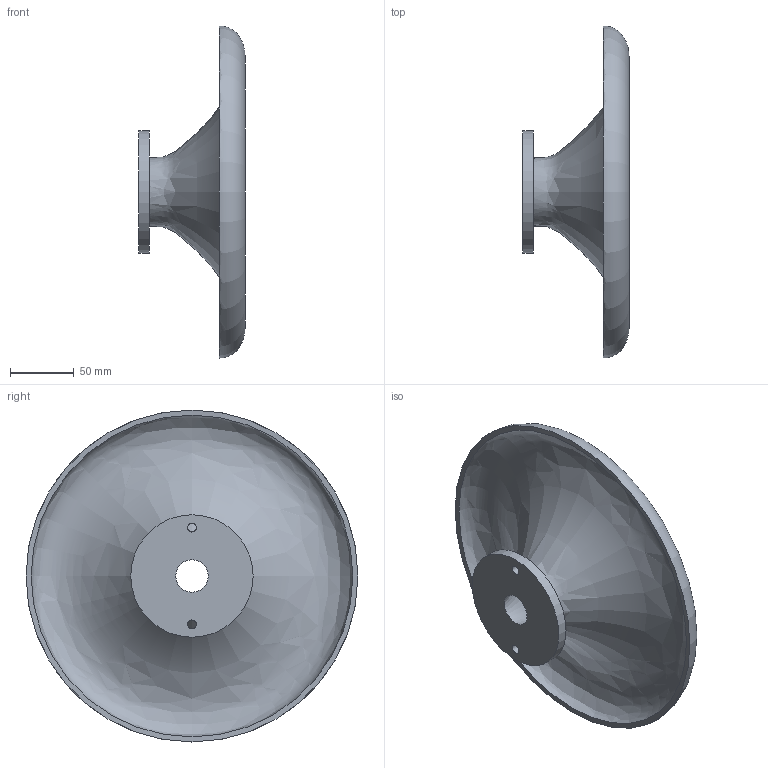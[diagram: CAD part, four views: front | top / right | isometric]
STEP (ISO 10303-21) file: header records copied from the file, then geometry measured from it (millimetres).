
FILE_DESCRIPTION(/* description */ (''),/* implementation_level */ '2;1');
FILE_NAME(/* name */ 'D:/Horns/parahorn_1_10/ST260-19 v2.step',/* time_stamp */ '2021-01-18T20:00:25+01:00',/* author */ (''),/* organization */ (''),/* preprocessor_version */ 'ST-DEVELOPER v18.1',/* originating_system */ 'Autodesk Translation Framework v9.7.1.1290',/* authorisation */ '');
FILE_SCHEMA (('AUTOMOTIVE_DESIGN { 1 0 10303 214 3 1 1 }'));
Length unit declared in the file: millimetre
Products named in the file (1): ST260-19
Bounding box: 83.23 x 260.39 x 260.41 mm (x, y, z)
Volume: 326975.9 mm3; surface area: 150580.3 mm2
Topology: 1 solids, 1 shells, 8 faces, 18 edges, 12 vertices
Faces by surface type: cylinder 3, plane 2, bspline 2, cone 1
Full cylindrical faces by diameter (mm): 7 x2, 96 x1
Entity records: 6268 total; most frequent: CARTESIAN_POINT 6035, DIRECTION 42, ORIENTED_EDGE 36, AXIS2_PLACEMENT_3D 19, EDGE_CURVE 18, EDGE_LOOP 14, CIRCLE 12, VERTEX_POINT 12
